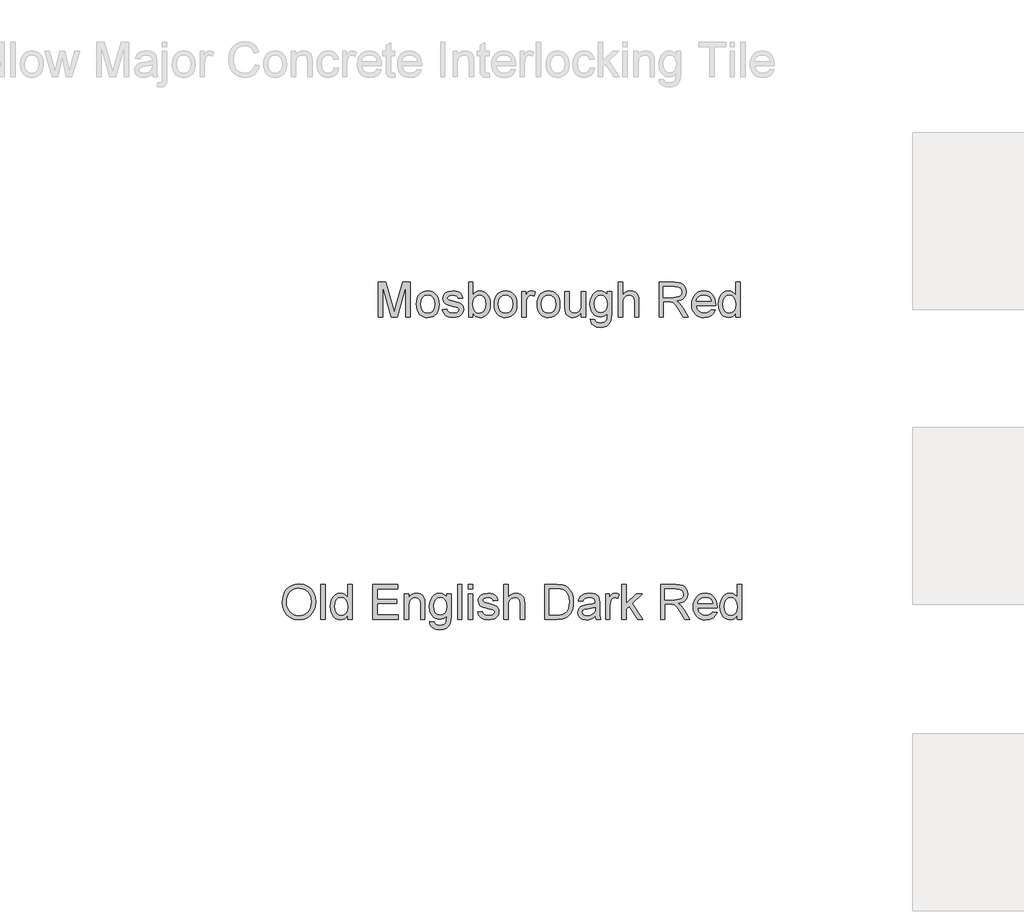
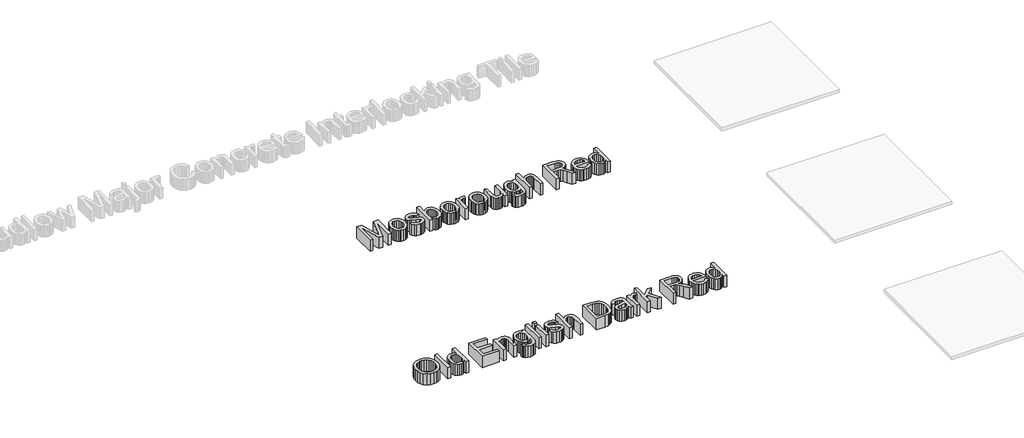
# One storey, part 3 of 6: 2 proxies.
"""IFC4 building model written with IfcOpenShell, lengths in millimetres."""

from ifc_helpers import new_model, si_unit, frame, origin, place, context, project, spatial, polyline, outline, extrude, element, save

model = new_model("IFC4")

# Units and contexts
model_context = context("Model", 3, world=origin())
ifc_project = project(units=[si_unit("LENGTHUNIT", "METRE", prefix="MILLI")], contexts=[model_context])

# Site, building, storey
site = spatial("IfcSite", under=ifc_project)
building = spatial("IfcBuilding", under=site)
storey = spatial("IfcBuildingStorey", under=building, Name="Marley Concrete Interlocking", Elevation=3000.0)

# Proxies
placement = place(None, origin())
element("IfcBuildingElementProxy", 1, Name="600mm Arial", ObjectType="600mm Arial", at=placement, inside=storey, context=model_context, shape_type="SweptSolid", body=[
    extrude(outline(polyline([(-15713.948386, 3359.2801118), (-15713.948386, 3654.6647272), (-15650.4147322, 3654.6647272), (-15589.9820399, 3446.4676118), (-15577.7945399, 3402.9820349), (-15564.5974245, 3450.073381), (-15505.1743475, 3654.6647272), (-15441.6406937, 3654.6647272), (-15441.6406937, 3359.2801118), (-15478.5637706, 3359.2801118), (-15478.5637706, 3617.7416503), (-15552.7705014, 3359.2801118), (-15602.8185783, 3359.2801118), (-15677.0253091, 3617.7416503), (-15677.0253091, 3359.2801118), (-15713.948386, 3359.2801118)])), frame((0.0, 0.0, 3000.0), z_axis=(0.0, 0.0, 1.0), x_axis=(1.0, 0.0, 0.0)), (0.0, 0.0, 1.0), 150.0),
    extrude(outline(polyline([(-15390.8714629, 3467.7416503), (-15388.8747682, 3495.8350998), (-15382.8846841, 3520.043333), (-15372.9012105, 3540.3663498), (-15358.9243475, 3556.8041503), (-15344.8528331, 3567.3104604), (-15329.3209822, 3574.8149676), (-15312.3287947, 3579.3176719), (-15293.8762706, 3580.8185733), (-15273.5059281, 3578.9908991), (-15255.0872081, 3573.5078762), (-15238.6201108, 3564.3695048), (-15224.104636, 3551.5757849), (-15212.2574305, 3535.5594087), (-15203.7951408, 3516.7530685), (-15198.717767, 3495.1567644), (-15197.0253091, 3470.7704964), (-15200.0180975, 3433.4688137), (-15208.9964629, 3405.073381), (-15223.698987, 3383.808357), (-15243.8642514, 3367.8979003), (-15267.8155735, 3357.9730205), (-15293.8762706, 3354.6647272), (-15314.5440891, 3356.4856407), (-15333.1340831, 3361.948381), (-15349.6462526, 3371.0529483), (-15364.0805975, 3383.7993426), (-15375.8016012, 3399.9712176), (-15384.1737466, 3419.3522272), (-15389.1970338, 3441.9423714), (-15390.8714629, 3467.7416503)]), holes=[polyline([(-15353.948386, 3467.8137657), (-15349.6755495, 3434.3972993), (-15336.8570399, 3410.590208), (-15317.5661745, 3396.3384051), (-15293.8762706, 3391.5878041), (-15270.2945399, 3396.3654483), (-15251.0397322, 3410.698381), (-15238.2212225, 3434.8209772), (-15233.948386, 3468.9676118), (-15238.2482658, 3501.4105205), (-15251.1479052, 3524.8930926), (-15270.4297562, 3539.1448955), (-15293.8762706, 3543.8954964), (-15317.5661745, 3539.1629243), (-15336.8570399, 3524.965208), (-15349.6755495, 3501.2122032), (-15353.948386, 3467.8137657)])]), frame((0.0, 0.0, 3000.0), z_axis=(0.0, 0.0, 1.0), x_axis=(1.0, 0.0, 0.0)), (0.0, 0.0, 1.0), 150.0),
    extrude(outline(polyline([(-15169.3330014, 3423.8954964), (-15132.4099245, 3428.510881), (-15126.5866072, 3412.7176118), (-15115.3185783, 3401.1070349), (-15098.5337225, 3393.9676118), (-15076.1599245, 3391.5878041), (-15054.0565591, 3393.7692945), (-15038.5156937, 3400.3137657), (-15029.3209822, 3409.7969387), (-15026.2560783, 3420.7945349), (-15029.339011, 3430.2055926), (-15038.5878091, 3437.3810733), (-15076.5926168, 3447.9099195), (-15132.1935783, 3465.9748233), (-15146.2650927, 3475.0523474), (-15156.4604052, 3487.0685733), (-15162.6533139, 3501.2572753), (-15164.7176168, 3516.8522272), (-15163.0589629, 3531.1581166), (-15158.0830014, 3544.3642464), (-15150.2404533, 3555.9477801), (-15139.9820399, 3565.385881), (-15116.5084822, 3576.3113618), (-15084.7416552, 3580.8185733), (-15060.7092033, 3579.0066743), (-15039.8137706, 3573.5709772), (-15023.010886, 3565.043333), (-15011.2560783, 3553.9555926), (-15003.4676168, 3539.4874435), (-14998.5637706, 3520.8185733), (-15035.4868475, 3516.2031887), (-15040.1473043, 3527.8227801), (-15049.3690591, 3536.5757849), (-15063.2422562, 3542.0655685), (-15081.8570399, 3543.8954964), (-15103.0589629, 3542.1466983), (-15117.1935783, 3536.9003041), (-15125.1442995, 3529.3281887), (-15127.7945399, 3520.6022272), (-15123.3955014, 3509.8570349), (-15109.6214629, 3501.7079964), (-15077.8185783, 3493.8474195), (-15023.6238668, 3476.4676118), (-15009.3089629, 3468.1563137), (-14998.4555975, 3456.7801118), (-14991.6136504, 3442.3029483), (-14989.3330014, 3424.6887657), (-14992.010285, 3406.479631), (-15000.042136, 3389.3522272), (-15013.1220639, 3374.6497032), (-15030.9435783, 3363.715208), (-15052.4700206, 3356.9273474), (-15076.6647322, 3354.6647272), (-15113.8942995, 3359.027708), (-15141.0637706, 3372.1166503), (-15159.2007899, 3393.7873233), (-15169.3330014, 3423.8954964)])), frame((0.0, 0.0, 3000.0), z_axis=(0.0, 0.0, 1.0), x_axis=(1.0, 0.0, 0.0)), (0.0, 0.0, 1.0), 150.0),
    extrude(outline(polyline([(-14910.8714629, 3359.2801118), (-14947.7945399, 3359.2801118), (-14947.7945399, 3654.6647272), (-14910.8714629, 3654.6647272), (-14910.8714629, 3545.121458), (-14898.729035, 3560.7389459), (-14885.0180975, 3571.8942945), (-14869.7386504, 3578.5875036), (-14852.8906937, 3580.8185733), (-14833.870261, 3578.808357), (-14815.8955014, 3572.777708), (-14799.9940591, 3563.105232), (-14787.1935783, 3550.1695349), (-14777.1605254, 3534.0968185), (-14769.5613668, 3515.0132849), (-14764.7747081, 3493.7122032), (-14763.1791552, 3470.9868426), (-14764.8310483, 3444.7638858), (-14769.7867274, 3421.6959772), (-14778.0461925, 3401.7831166), (-14789.6094437, 3385.0253041), (-14803.4894016, 3371.7425517), (-14818.698987, 3362.2548714), (-14835.2381997, 3356.5622632), (-14853.1070399, 3354.6647272), (-14870.5093836, 3357.1121431), (-14885.9375687, 3364.4543907), (-14899.3915951, 3376.69147), (-14910.8714629, 3393.823381), (-14910.8714629, 3359.2801118)]), holes=[polyline([(-14910.8714629, 3469.2560733), (-14908.3474245, 3438.4628041), (-14900.7753091, 3417.621458), (-14891.8284942, 3406.2317344), (-14881.4303572, 3398.0962176), (-14869.580898, 3393.2149075), (-14856.2801168, 3391.5878041), (-14834.9700206, 3396.3834772), (-14816.760886, 3410.7704964), (-14804.2668956, 3434.6587176), (-14800.1022322, 3467.9579964), (-14804.0956216, 3501.7440541), (-14816.0757899, 3525.3618426), (-14833.7170158, 3539.262083), (-14854.6935783, 3543.8954964), (-14876.0036745, 3539.0998233), (-14894.2128091, 3524.7128041), (-14906.7067995, 3501.2572753), (-14910.8714629, 3469.2560733)])]), frame((0.0, 0.0, 3000.0), z_axis=(0.0, 0.0, 1.0), x_axis=(1.0, 0.0, 0.0)), (0.0, 0.0, 1.0), 150.0),
    extrude(outline(polyline([(-14730.8714629, 3467.7416503), (-14728.8747682, 3495.8350998), (-14722.8846841, 3520.043333), (-14712.9012105, 3540.3663498), (-14698.9243475, 3556.8041503), (-14684.8528331, 3567.3104604), (-14669.3209822, 3574.8149676), (-14652.3287947, 3579.3176719), (-14633.8762706, 3580.8185733), (-14613.5059281, 3578.9908991), (-14595.0872081, 3573.5078762), (-14578.6201108, 3564.3695048), (-14564.104636, 3551.5757849), (-14552.2574305, 3535.5594087), (-14543.7951408, 3516.7530685), (-14538.717767, 3495.1567644), (-14537.0253091, 3470.7704964), (-14540.0180975, 3433.4688137), (-14548.9964629, 3405.073381), (-14563.698987, 3383.808357), (-14583.8642514, 3367.8979003), (-14607.8155735, 3357.9730205), (-14633.8762706, 3354.6647272), (-14654.5440891, 3356.4856407), (-14673.1340831, 3361.948381), (-14689.6462526, 3371.0529483), (-14704.0805975, 3383.7993426), (-14715.8016012, 3399.9712176), (-14724.1737466, 3419.3522272), (-14729.1970338, 3441.9423714), (-14730.8714629, 3467.7416503)]), holes=[polyline([(-14693.948386, 3467.8137657), (-14689.6755495, 3434.3972993), (-14676.8570399, 3410.590208), (-14657.5661745, 3396.3384051), (-14633.8762706, 3391.5878041), (-14610.2945399, 3396.3654483), (-14591.0397322, 3410.698381), (-14578.2212225, 3434.8209772), (-14573.948386, 3468.9676118), (-14578.2482658, 3501.4105205), (-14591.1479052, 3524.8930926), (-14610.4297562, 3539.1448955), (-14633.8762706, 3543.8954964), (-14657.5661745, 3539.1629243), (-14676.8570399, 3524.965208), (-14689.6755495, 3501.2122032), (-14693.948386, 3467.8137657)])]), frame((0.0, 0.0, 3000.0), z_axis=(0.0, 0.0, 1.0), x_axis=(1.0, 0.0, 0.0)), (0.0, 0.0, 1.0), 150.0),
    extrude(outline(polyline([(-14495.4868475, 3359.2801118), (-14495.4868475, 3576.2031887), (-14463.1791552, 3576.2031887), (-14463.1791552, 3544.1118426), (-14451.2440591, 3562.7176118), (-14440.2464629, 3573.6791503), (-14429.2128091, 3579.0337176), (-14417.1695399, 3580.8185733), (-14398.7801168, 3577.9700157), (-14380.1022322, 3569.4243426), (-14392.4339629, 3536.323381), (-14405.4147322, 3542.0024676), (-14418.3955014, 3543.8954964), (-14429.4201408, 3542.074583), (-14439.2729052, 3536.6118426), (-14447.2326408, 3527.9219387), (-14452.5781937, 3516.4195349), (-14457.0673764, 3495.7945349), (-14458.5637706, 3473.2945349), (-14458.5637706, 3359.2801118), (-14495.4868475, 3359.2801118)])), frame((0.0, 0.0, 3000.0), z_axis=(0.0, 0.0, 1.0), x_axis=(1.0, 0.0, 0.0)), (0.0, 0.0, 1.0), 150.0),
    extrude(outline(polyline([(-14366.2560783, 3467.7416503), (-14364.2593836, 3495.8350998), (-14358.2692995, 3520.043333), (-14348.2858259, 3540.3663498), (-14334.3089629, 3556.8041503), (-14320.2374485, 3567.3104604), (-14304.7055975, 3574.8149676), (-14287.71341, 3579.3176719), (-14269.260886, 3580.8185733), (-14248.8905435, 3578.9908991), (-14230.4718235, 3573.5078762), (-14214.0047262, 3564.3695048), (-14199.4892514, 3551.5757849), (-14187.6420459, 3535.5594087), (-14179.1797562, 3516.7530685), (-14174.1023824, 3495.1567644), (-14172.4099245, 3470.7704964), (-14175.4027129, 3433.4688137), (-14184.3810783, 3405.073381), (-14199.0836024, 3383.808357), (-14219.2488668, 3367.8979003), (-14243.2001889, 3357.9730205), (-14269.260886, 3354.6647272), (-14289.9287045, 3356.4856407), (-14308.5186985, 3361.948381), (-14325.030868, 3371.0529483), (-14339.4652129, 3383.7993426), (-14351.1862165, 3399.9712176), (-14359.558362, 3419.3522272), (-14364.5816492, 3441.9423714), (-14366.2560783, 3467.7416503)]), holes=[polyline([(-14329.3330014, 3467.8137657), (-14325.0601649, 3434.3972993), (-14312.2416552, 3410.590208), (-14292.9507899, 3396.3384051), (-14269.260886, 3391.5878041), (-14245.6791552, 3396.3654483), (-14226.4243475, 3410.698381), (-14213.6058379, 3434.8209772), (-14209.3330014, 3468.9676118), (-14213.6328812, 3501.4105205), (-14226.5325206, 3524.8930926), (-14245.8143716, 3539.1448955), (-14269.260886, 3543.8954964), (-14292.9507899, 3539.1629243), (-14312.2416552, 3524.965208), (-14325.0601649, 3501.2122032), (-14329.3330014, 3467.8137657)])]), frame((0.0, 0.0, 3000.0), z_axis=(0.0, 0.0, 1.0), x_axis=(1.0, 0.0, 0.0)), (0.0, 0.0, 1.0), 150.0),
    extrude(outline(polyline([(-13992.4099245, 3359.2801118), (-13992.4099245, 3396.5637657), (-14005.7692995, 3378.2329363), (-14021.3281937, 3365.1394868), (-14039.0866072, 3357.2834171), (-14059.0445399, 3354.6647272), (-14077.0283139, 3356.5036695), (-14093.7680975, 3362.0204964), (-14107.8125687, 3370.3137657), (-14117.7104052, 3380.4820349), (-14128.7080014, 3407.6695349), (-14130.8714629, 3441.996458), (-14130.8714629, 3576.2031887), (-14093.948386, 3576.2031887), (-14093.948386, 3459.3762657), (-14091.7128091, 3421.7320349), (-14086.3311985, 3409.1749435), (-14077.1094437, 3399.6286695), (-14064.6605254, 3393.5980205), (-14049.5974245, 3391.5878041), (-14033.6689389, 3393.6430926), (-14018.7680975, 3399.808958), (-14006.4814389, 3409.5174916), (-13998.3955014, 3422.2007849), (-13993.9063187, 3439.5715782), (-13992.4099245, 3463.3426118), (-13992.4099245, 3576.2031887), (-13955.4868475, 3576.2031887), (-13955.4868475, 3359.2801118), (-13992.4099245, 3359.2801118)])), frame((0.0, 0.0, 3000.0), z_axis=(0.0, 0.0, 1.0), x_axis=(1.0, 0.0, 0.0)), (0.0, 0.0, 1.0), 150.0),
    extrude(outline(polyline([(-13913.948386, 3340.8185733), (-13877.0253091, 3336.2031887), (-13872.9507899, 3324.6647272), (-13865.0541552, 3316.7320349), (-13849.5313187, 3310.5661695), (-13829.2128091, 3308.510881), (-13807.542136, 3310.8366022), (-13791.4243475, 3317.8137657), (-13780.2464629, 3328.9916503), (-13773.3955014, 3343.9195349), (-13770.8714629, 3386.9724195), (-13783.1581216, 3374.8570349), (-13796.8690591, 3366.2031887), (-13812.0042754, 3361.010881), (-13828.5637706, 3359.2801118), (-13848.8079112, 3361.2948354), (-13866.6316793, 3367.339006), (-13882.0350747, 3377.4126238), (-13895.0180975, 3391.5156887), (-13905.3193295, 3408.4357608), (-13912.6773524, 3426.9604003), (-13918.5637706, 3468.823381), (-13915.9225447, 3498.6340782), (-13907.9988668, 3526.0469387), (-13895.0721841, 3549.277107), (-13877.4219437, 3566.5397272), (-13855.652112, 3577.2488618), (-13830.3666552, 3580.8185733), (-13813.0995278, 3578.7993426), (-13797.4279533, 3572.7416503), (-13783.3519317, 3562.6454964), (-13770.8714629, 3548.510881), (-13770.8714629, 3576.2031887), (-13733.948386, 3576.2031887), (-13733.948386, 3388.9195349), (-13736.4724245, 3345.6773474), (-13744.0445399, 3317.2007849), (-13757.08841, 3298.3155685), (-13776.0277129, 3283.8474195), (-13800.447785, 3274.652708), (-13829.9339629, 3271.5878041), (-13864.2879293, 3275.9057128), (-13891.3402129, 3288.8594387), (-13901.5287646, 3298.5837476), (-13908.6929774, 3310.4850397), (-13912.8328512, 3324.5633149), (-13913.948386, 3340.8185733)]), holes=[polyline([(-13881.6406937, 3471.3474195), (-13877.7013908, 3437.480232), (-13865.8834822, 3414.1959772), (-13848.1160543, 3400.7013858), (-13826.3281937, 3396.2031887), (-13804.7025927, 3400.6743426), (-13786.8450206, 3414.0878041), (-13774.8648524, 3437.074583), (-13770.8714629, 3470.2656887), (-13774.9820399, 3502.2759051), (-13787.3137706, 3525.3257849), (-13805.432761, 3539.2530685), (-13826.9051168, 3543.8954964), (-13847.9898524, 3539.3251839), (-13865.667136, 3525.6142464), (-13877.6473043, 3502.9069147), (-13881.6406937, 3471.3474195)])]), frame((0.0, 0.0, 3000.0), z_axis=(0.0, 0.0, 1.0), x_axis=(1.0, 0.0, 0.0)), (0.0, 0.0, 1.0), 150.0),
    extrude(outline(polyline([(-13678.5637706, 3359.2801118), (-13678.5637706, 3654.6647272), (-13641.6406937, 3654.6647272), (-13641.6406937, 3546.058958), (-13628.0784942, 3561.2662897), (-13612.8486264, 3572.1286695), (-13595.9510903, 3578.6460974), (-13577.385886, 3580.8185733), (-13555.0842033, 3578.4477801), (-13535.9195399, 3571.3354003), (-13520.8293956, 3560.0403282), (-13510.7512706, 3545.121458), (-13505.0721841, 3524.6226599), (-13503.1791552, 3496.5878041), (-13503.1791552, 3359.2801118), (-13540.1022322, 3359.2801118), (-13540.1022322, 3492.7656887), (-13543.0409341, 3515.8786695), (-13551.8570399, 3531.7079964), (-13566.0637706, 3540.8486214), (-13585.1743475, 3543.8954964), (-13600.7783139, 3541.840208), (-13615.4267514, 3535.6743426), (-13627.5601649, 3525.9928522), (-13635.6190591, 3513.3906887), (-13640.135285, 3496.6418907), (-13641.6406937, 3474.5204964), (-13641.6406937, 3359.2801118), (-13678.5637706, 3359.2801118)])), frame((0.0, 0.0, 3000.0), z_axis=(0.0, 0.0, 1.0), x_axis=(1.0, 0.0, 0.0)), (0.0, 0.0, 1.0), 150.0),
    extrude(outline(polyline([(-13332.4099245, 3359.2801118), (-13332.4099245, 3654.6647272), (-13205.1262706, 3654.6647272), (-13170.916535, 3652.6725397), (-13146.0277129, 3646.6959772), (-13127.8366072, 3635.6623233), (-13113.7200206, 3618.4988618), (-13104.6605254, 3597.2158089), (-13101.6406937, 3573.823381), (-13106.6436985, 3544.7248233), (-13121.6527129, 3520.6022272), (-13133.022154, 3510.7719988), (-13147.1184581, 3502.9159291), (-13183.4916552, 3493.1262657), (-13162.5060783, 3477.3329964), (-13132.5781937, 3439.3281887), (-13083.323386, 3359.2801118), (-13126.2320399, 3359.2801118), (-13164.6695399, 3420.5060733), (-13192.4339629, 3461.0349195), (-13211.9411745, 3480.1815541), (-13229.5012706, 3487.2128041), (-13250.9195399, 3488.510881), (-13295.4868475, 3488.510881), (-13295.4868475, 3359.2801118), (-13332.4099245, 3359.2801118)]), holes=[polyline([(-13295.4868475, 3525.433958), (-13212.8426168, 3525.433958), (-13189.1076408, 3526.7410493), (-13170.6911745, 3530.6623233), (-13156.8269918, 3537.4591983), (-13146.7488668, 3547.3930926), (-13140.6100447, 3559.4093185), (-13138.5637706, 3572.4531887), (-13142.4670158, 3590.464006), (-13154.1767514, 3604.9772272), (-13174.323987, 3614.5505445), (-13203.5397322, 3617.7416503), (-13295.4868475, 3617.7416503), (-13295.4868475, 3525.433958)])]), frame((0.0, 0.0, 3000.0), z_axis=(0.0, 0.0, 1.0), x_axis=(1.0, 0.0, 0.0)), (0.0, 0.0, 1.0), 150.0),
    extrude(outline(polyline([(-12889.7656937, 3423.8954964), (-12853.5637706, 3419.2801118), (-12866.6076408, 3392.0024676), (-12887.4219437, 3371.6118426), (-12915.5379293, 3358.901506), (-12950.4868475, 3354.6647272), (-12973.3970038, 3356.4924015), (-12993.8101649, 3361.9754243), (-13011.7263307, 3371.1137957), (-13027.1455014, 3383.9075157), (-13039.5448403, 3400.0005144), (-13048.401511, 3419.0367224), (-13053.7155134, 3441.0161394), (-13055.4868475, 3465.9387657), (-13053.6974846, 3491.706494), (-13048.3293956, 3514.418333), (-13039.3825807, 3534.0742825), (-13026.8570399, 3550.6743426), (-13011.4784341, 3563.8624435), (-12993.9724245, 3573.2825157), (-12974.339011, 3578.9345589), (-12952.5781937, 3580.8185733), (-12931.5182478, 3578.9390661), (-12912.4730254, 3573.3005445), (-12895.4425266, 3563.9030084), (-12880.4267514, 3550.746458), (-12868.1693896, 3534.1824556), (-12859.4141312, 3514.5625637), (-12854.1609762, 3491.8867825), (-12852.4099245, 3466.1551118), (-12852.6262706, 3456.2031887), (-13018.5637706, 3456.2031887), (-13012.1725447, 3428.5649676), (-12997.3257899, 3408.246458), (-12975.8985062, 3395.7524676), (-12949.7656937, 3391.5878041), (-12930.1142514, 3393.5168907), (-12913.5637706, 3399.3041503), (-12900.1142514, 3409.3101599), (-12889.7656937, 3423.8954964)]), holes=[polyline([(-13018.5637706, 3493.1262657), (-12889.3330014, 3493.1262657), (-12894.3269918, 3512.6334772), (-12904.1166552, 3526.5878041), (-12925.6430975, 3539.5685733), (-12952.7224245, 3543.8954964), (-12977.6112466, 3540.4429724), (-12998.1911745, 3530.0854003), (-13012.4970639, 3513.9405685), (-13018.5637706, 3493.1262657)])]), frame((0.0, 0.0, 3000.0), z_axis=(0.0, 0.0, 1.0), x_axis=(1.0, 0.0, 0.0)), (0.0, 0.0, 1.0), 150.0),
    extrude(outline(polyline([(-12681.6406937, 3359.2801118), (-12681.6406937, 3394.1118426), (-12692.6878692, 3376.8537296), (-12706.0697802, 3364.526506), (-12721.7864269, 3357.1301719), (-12739.8378091, 3354.6647272), (-12763.7080014, 3358.2344387), (-12785.5589629, 3368.9435733), (-12804.0565591, 3386.0439339), (-12817.8666552, 3408.7873233), (-12826.4664149, 3436.2542705), (-12829.3330014, 3467.5253041), (-12826.6917754, 3498.4087176), (-12818.7680975, 3526.2993426), (-12805.5709822, 3549.6106407), (-12787.1094437, 3566.7560733), (-12764.7807177, 3577.3029483), (-12739.9820399, 3580.8185733), (-12721.917136, 3578.3035493), (-12705.9435783, 3570.7584772), (-12692.4039149, 3559.1929724), (-12681.6406937, 3544.6166503), (-12681.6406937, 3654.6647272), (-12644.7176168, 3654.6647272), (-12644.7176168, 3359.2801118), (-12681.6406937, 3359.2801118)]), holes=[polyline([(-12792.4099245, 3467.6695349), (-12788.245261, 3434.2710974), (-12775.7512706, 3410.5180926), (-12757.5962225, 3396.3203762), (-12736.448386, 3391.5878041), (-12715.3095639, 3396.1040301), (-12697.6142514, 3409.652708), (-12685.6340831, 3432.4862416), (-12681.6406937, 3464.8570349), (-12685.7061985, 3500.2476599), (-12697.9027129, 3524.7849195), (-12716.0487466, 3539.1178522), (-12737.9628091, 3543.8954964), (-12759.3269918, 3539.3071551), (-12776.8330014, 3525.542131), (-12788.5156937, 3501.8972993), (-12792.4099245, 3467.6695349)])]), frame((0.0, 0.0, 3000.0), z_axis=(0.0, 0.0, 1.0), x_axis=(1.0, 0.0, 0.0)), (0.0, 0.0, 1.0), 150.0),
])
element("IfcBuildingElementProxy", 2, Name="600mm Arial", ObjectType="600mm Arial", at=placement, inside=storey, context=model_context, shape_type="SweptSolid", body=[
    extrude(outline(polyline([(-16526.9304654, 937.3726877), (-16524.4695279, 972.0196228), (-16517.0867154, 1002.6911973), (-16504.7820279, 1029.3874112), (-16487.5554654, 1052.1082646), (-16466.4391793, 1070.249791), (-16442.4653212, 1083.2080242), (-16415.6338909, 1090.9829641), (-16385.9448885, 1093.5746107), (-16347.2008981, 1088.7068223), (-16312.4593115, 1074.1034569), (-16283.6131577, 1050.7921588), (-16262.5554654, 1019.8005723), (-16249.6828692, 982.6250915), (-16245.3920038, 940.7621107), (-16249.9082298, 898.3402357), (-16263.4569077, 860.6419184), (-16285.2898404, 829.5962453), (-16314.6588308, 807.132303), (-16349.1029413, 793.5024953), (-16386.1612346, 788.9592261), (-16425.5001769, 793.9802598), (-16460.4400808, 809.0433607), (-16489.2141192, 832.7873511), (-16510.0554654, 863.851053), (-16522.7117154, 899.5932405), (-16526.9304654, 937.3726877)]), holes=[polyline([(-16490.0073885, 937.0121107), (-16488.1616853, 912.5334449), (-16482.624576, 890.804178), (-16473.3960603, 871.8243103), (-16460.4761385, 855.5938415), (-16444.7707599, 842.5950434), (-16427.185874, 833.3101877), (-16407.721481, 827.7392742), (-16386.3775808, 825.882303), (-16364.6685964, 827.757303), (-16344.9743356, 833.382303), (-16327.2947983, 842.757303), (-16311.6299846, 855.882303), (-16298.8047142, 872.4553199), (-16289.6438067, 892.1743703), (-16284.1472623, 915.0394545), (-16282.3150808, 941.0505723), (-16285.4521, 973.7368703), (-16294.8631577, 1001.9880723), (-16310.3048644, 1025.0920386), (-16331.5338308, 1042.33663), (-16357.1438067, 1053.0728078), (-16385.7285423, 1056.6515338), (-16406.3310063, 1054.9275254), (-16425.4460904, 1049.7555002), (-16443.0737947, 1041.1354581), (-16459.2141192, 1029.0673992), (-16472.6861745, 1012.9698932), (-16482.3090712, 992.2615098), (-16488.0828091, 966.942249), (-16490.0073885, 937.0121107)])]), frame((0.0, 0.0, 3000.0), z_axis=(0.0, 0.0, 1.0), x_axis=(1.0, 0.0, 0.0)), (0.0, 0.0, 1.0), 150.0),
    extrude(outline(polyline([(-16199.2381577, 793.5746107), (-16199.2381577, 1088.9592261), (-16162.3150808, 1088.9592261), (-16162.3150808, 793.5746107), (-16199.2381577, 793.5746107)])), frame((0.0, 0.0, 3000.0), z_axis=(0.0, 0.0, 1.0), x_axis=(1.0, 0.0, 0.0)), (0.0, 0.0, 1.0), 150.0),
    extrude(outline(polyline([(-15973.0843115, 793.5746107), (-15973.0843115, 828.4063415), (-15984.131487, 811.1482285), (-15997.5133981, 798.821005), (-16013.2300447, 791.4246708), (-16031.2814269, 788.9592261), (-16055.1516192, 792.5289377), (-16077.0025808, 803.2380723), (-16095.5001769, 820.3384328), (-16109.3102731, 843.0818223), (-16117.9100327, 870.5487694), (-16120.7766192, 901.819803), (-16118.1353933, 932.7032165), (-16110.2117154, 960.5938415), (-16097.0146, 983.9051396), (-16078.5530615, 1001.0505723), (-16056.2243356, 1011.5974473), (-16031.4256577, 1015.1130723), (-16013.3607538, 1012.5980482), (-15997.3871962, 1005.0529761), (-15983.8475327, 993.4874713), (-15973.0843115, 978.9111492), (-15973.0843115, 1088.9592261), (-15936.1612346, 1088.9592261), (-15936.1612346, 793.5746107), (-15973.0843115, 793.5746107)]), holes=[polyline([(-16083.8535423, 901.9640338), (-16079.6888788, 868.5655963), (-16067.1948885, 844.8125915), (-16049.0398404, 830.6148752), (-16027.8920038, 825.882303), (-16006.7531817, 830.398529), (-15989.0578692, 843.9472069), (-15977.077701, 866.7807405), (-15973.0843115, 899.1515338), (-15977.1498163, 934.5421588), (-15989.3463308, 959.0794184), (-16007.4923644, 973.4123511), (-16029.4064269, 978.1899953), (-16050.7706096, 973.601654), (-16068.2766192, 959.83663), (-16079.9593115, 936.1917982), (-16083.8535423, 901.9640338)])]), frame((0.0, 0.0, 3000.0), z_axis=(0.0, 0.0, 1.0), x_axis=(1.0, 0.0, 0.0)), (0.0, 0.0, 1.0), 150.0),
    extrude(outline(polyline([(-15760.7766192, 793.5746107), (-15760.7766192, 1088.9592261), (-15548.4689269, 1088.9592261), (-15548.4689269, 1052.0361492), (-15723.8535423, 1052.0361492), (-15723.8535423, 964.3438415), (-15557.6996962, 964.3438415), (-15557.6996962, 927.4207646), (-15723.8535423, 927.4207646), (-15723.8535423, 830.4976877), (-15543.8535423, 830.4976877), (-15543.8535423, 793.5746107), (-15760.7766192, 793.5746107)])), frame((0.0, 0.0, 3000.0), z_axis=(0.0, 0.0, 1.0), x_axis=(1.0, 0.0, 0.0)), (0.0, 0.0, 1.0), 150.0),
    extrude(outline(polyline([(-15493.0843115, 793.5746107), (-15493.0843115, 1010.4976877), (-15456.1612346, 1010.4976877), (-15456.1612346, 980.2092261), (-15443.3337106, 995.4796588), (-15427.9280615, 1006.3871107), (-15409.9442875, 1012.9315819), (-15389.3823885, 1015.1130723), (-15371.1822683, 1013.3552598), (-15354.5146, 1008.0818223), (-15340.6143596, 999.9508127), (-15330.7165231, 989.6202838), (-15319.6468115, 962.4688415), (-15317.6996962, 926.7717261), (-15317.6996962, 793.5746107), (-15354.6227731, 793.5746107), (-15354.6227731, 921.7957646), (-15358.8775808, 954.4640338), (-15364.763999, 964.1905963), (-15373.9136385, 971.7356684), (-15385.6414029, 976.5764136), (-15399.2621962, 978.1899953), (-15420.8877971, 974.5661973), (-15439.3222923, 963.694803), (-15446.6893296, 954.8201035), (-15451.951499, 942.6911973), (-15456.1612346, 908.6707646), (-15456.1612346, 793.5746107), (-15493.0843115, 793.5746107)])), frame((0.0, 0.0, 3000.0), z_axis=(0.0, 0.0, 1.0), x_axis=(1.0, 0.0, 0.0)), (0.0, 0.0, 1.0), 150.0),
    extrude(outline(polyline([(-15276.1612346, 775.1130723), (-15239.2381577, 770.4976877), (-15235.1636385, 758.9592261), (-15227.2670038, 751.0265338), (-15211.7441673, 744.8606684), (-15191.4256577, 742.80538), (-15169.7549846, 745.1311011), (-15153.6371962, 752.1082646), (-15142.4593115, 763.2861492), (-15135.60835, 778.2140338), (-15133.0843115, 821.2669184), (-15145.3709702, 809.1515338), (-15159.0819077, 800.4976877), (-15174.217124, 795.30538), (-15190.7766192, 793.5746107), (-15211.0207599, 795.5893343), (-15228.8445279, 801.633505), (-15244.2479233, 811.7071228), (-15257.2309462, 825.8101877), (-15267.5321781, 842.7302598), (-15274.890201, 861.2548992), (-15280.7766192, 903.11788), (-15278.1353933, 932.9285771), (-15270.2117154, 960.3414377), (-15257.2850327, 983.5716059), (-15239.6347923, 1000.8342261), (-15217.8649606, 1011.5433607), (-15192.5795038, 1015.1130723), (-15175.3123764, 1013.0938415), (-15159.6408019, 1007.0361492), (-15145.5647803, 996.9399953), (-15133.0843115, 982.80538), (-15133.0843115, 1010.4976877), (-15096.1612346, 1010.4976877), (-15096.1612346, 823.2140338), (-15098.6852731, 779.9718463), (-15106.2573885, 751.4952838), (-15119.3012587, 732.6100675), (-15138.2405615, 718.1419184), (-15162.6606337, 708.9472069), (-15192.1468115, 705.882303), (-15226.5007779, 710.2002117), (-15253.5530615, 723.1539377), (-15263.7416132, 732.8782465), (-15270.905826, 744.7795386), (-15275.0456998, 758.8578139), (-15276.1612346, 775.1130723)]), holes=[polyline([(-15243.8535423, 905.6419184), (-15239.9142394, 871.7747309), (-15228.0963308, 848.4904761), (-15210.3289029, 834.9958848), (-15188.5410423, 830.4976877), (-15166.9154413, 834.9688415), (-15149.0578692, 848.382303), (-15137.077701, 871.3690819), (-15133.0843115, 904.5601877), (-15137.1948885, 936.570404), (-15149.5266192, 959.6202838), (-15167.6456096, 973.5475675), (-15189.1179654, 978.1899953), (-15210.202701, 973.6196828), (-15227.8799846, 959.9087453), (-15239.8601529, 937.2014136), (-15243.8535423, 905.6419184)])]), frame((0.0, 0.0, 3000.0), z_axis=(0.0, 0.0, 1.0), x_axis=(1.0, 0.0, 0.0)), (0.0, 0.0, 1.0), 150.0),
    extrude(outline(polyline([(-15040.7766192, 793.5746107), (-15040.7766192, 1088.9592261), (-15003.8535423, 1088.9592261), (-15003.8535423, 793.5746107), (-15040.7766192, 793.5746107)])), frame((0.0, 0.0, 3000.0), z_axis=(0.0, 0.0, 1.0), x_axis=(1.0, 0.0, 0.0)), (0.0, 0.0, 1.0), 150.0),
    extrude(outline(polyline([(-14948.4689269, 793.5746107), (-14948.4689269, 1010.4976877), (-14911.54585, 1010.4976877), (-14911.54585, 793.5746107), (-14948.4689269, 793.5746107)])), frame((0.0, 0.0, 3000.0), z_axis=(0.0, 0.0, 1.0), x_axis=(1.0, 0.0, 0.0)), (0.0, 0.0, 1.0), 150.0),
    extrude(outline(polyline([(-14948.4689269, 1052.0361492), (-14948.4689269, 1088.9592261), (-14911.54585, 1088.9592261), (-14911.54585, 1052.0361492), (-14948.4689269, 1052.0361492)])), frame((0.0, 0.0, 3000.0), z_axis=(0.0, 0.0, 1.0), x_axis=(1.0, 0.0, 0.0)), (0.0, 0.0, 1.0), 150.0),
    extrude(outline(polyline([(-14870.0073885, 858.1899953), (-14833.0843115, 862.80538), (-14827.2609942, 847.0121107), (-14815.9929654, 835.4015338), (-14799.2081096, 828.2621107), (-14776.8343115, 825.882303), (-14754.7309462, 828.0637934), (-14739.1900808, 834.6082646), (-14729.9953692, 844.0914377), (-14726.9304654, 855.0890338), (-14730.0133981, 864.5000915), (-14739.2621962, 871.6755723), (-14777.2670038, 882.2044184), (-14832.8679654, 900.2693223), (-14846.9394798, 909.3468463), (-14857.1347923, 921.3630723), (-14863.327701, 935.5517742), (-14865.3920038, 951.1467261), (-14863.73335, 965.4526155), (-14858.7573885, 978.6587453), (-14850.9148404, 990.242279), (-14840.6564269, 999.68038), (-14817.1828692, 1010.6058607), (-14785.4160423, 1015.1130723), (-14761.3835904, 1013.3011732), (-14740.4881577, 1007.8654761), (-14723.6852731, 999.3378319), (-14711.9304654, 988.2500915), (-14704.1420038, 973.7819425), (-14699.2381577, 955.1130723), (-14736.1612346, 950.4976877), (-14740.8216913, 962.117279), (-14750.0434462, 970.8702838), (-14763.9166433, 976.3600675), (-14782.5314269, 978.1899953), (-14803.73335, 976.4411973), (-14817.8679654, 971.194803), (-14825.8186865, 963.6226877), (-14828.4689269, 954.8967261), (-14824.0698885, 944.1515338), (-14810.29585, 936.0024953), (-14778.4929654, 928.1419184), (-14724.2982538, 910.7621107), (-14709.98335, 902.4508127), (-14699.1299846, 891.0746107), (-14692.2880375, 876.5974473), (-14690.0073885, 858.9832646), (-14692.6846721, 840.77413), (-14700.7165231, 823.6467261), (-14713.796451, 808.9442021), (-14731.6179654, 798.0097069), (-14753.1444077, 791.2218463), (-14777.3391192, 788.9592261), (-14814.5686865, 793.3222069), (-14841.7381577, 806.4111492), (-14859.8751769, 828.0818223), (-14870.0073885, 858.1899953)])), frame((0.0, 0.0, 3000.0), z_axis=(0.0, 0.0, 1.0), x_axis=(1.0, 0.0, 0.0)), (0.0, 0.0, 1.0), 150.0),
    extrude(outline(polyline([(-14648.4689269, 793.5746107), (-14648.4689269, 1088.9592261), (-14611.54585, 1088.9592261), (-14611.54585, 980.3534569), (-14597.9836505, 995.5607886), (-14582.7537827, 1006.4231684), (-14565.8562466, 1012.9405963), (-14547.2910423, 1015.1130723), (-14524.9893596, 1012.742279), (-14505.8246962, 1005.6298992), (-14490.7345519, 994.3348271), (-14480.6564269, 979.4159569), (-14474.9773404, 958.9171588), (-14473.0843115, 930.882303), (-14473.0843115, 793.5746107), (-14510.0073885, 793.5746107), (-14510.0073885, 927.0601877), (-14512.9460904, 950.1731684), (-14521.7621962, 966.0024953), (-14535.9689269, 975.1431203), (-14555.0795038, 978.1899953), (-14570.6834702, 976.1347069), (-14585.3319077, 969.9688415), (-14597.4653212, 960.2873511), (-14605.5242154, 947.6851877), (-14610.0404413, 930.9363896), (-14611.54585, 908.8149953), (-14611.54585, 793.5746107), (-14648.4689269, 793.5746107)])), frame((0.0, 0.0, 3000.0), z_axis=(0.0, 0.0, 1.0), x_axis=(1.0, 0.0, 0.0)), (0.0, 0.0, 1.0), 150.0),
    extrude(outline(polyline([(-14302.3150808, 793.5746107), (-14302.3150808, 1088.9592261), (-14200.4160423, 1088.9592261), (-14147.6996962, 1084.7044184), (-14124.1540231, 1076.5012934), (-14104.2862346, 1063.5746107), (-14083.8595519, 1041.0746107), (-14069.3102731, 1013.0938415), (-14060.6023404, 980.1731684), (-14057.6996962, 942.8534569), (-14059.6648404, 911.1497309), (-14065.5602731, 883.2500915), (-14074.5386385, 859.4970867), (-14085.7525808, 840.2332646), (-14098.6612346, 825.0259328), (-14112.7237346, 813.4423992), (-14128.8685663, 804.851654), (-14148.0242154, 798.6226877), (-14195.5121962, 793.5746107), (-14302.3150808, 793.5746107)]), holes=[polyline([(-14265.3920038, 830.4976877), (-14200.0554654, 830.4976877), (-14173.030225, 831.8318223), (-14152.5314269, 835.8342261), (-14137.0626769, 842.2705242), (-14125.1275808, 850.9063415), (-14112.3000567, 866.8889136), (-14102.6636385, 887.5770146), (-14096.6329894, 913.0607886), (-14094.6227731, 943.43038), (-14098.562076, 983.6707646), (-14110.3799846, 1013.382303), (-14127.8409221, 1033.7909569), (-14148.7093115, 1046.1226877), (-14169.9472923, 1050.5577838), (-14201.0650808, 1052.0361492), (-14265.3920038, 1052.0361492), (-14265.3920038, 830.4976877)])]), frame((0.0, 0.0, 3000.0), z_axis=(0.0, 0.0, 1.0), x_axis=(1.0, 0.0, 0.0)), (0.0, 0.0, 1.0), 150.0),
    extrude(outline(polyline([(-13873.0843115, 821.2669184), (-13890.7255375, 806.1407165), (-13908.8896, 796.24288), (-13927.9911625, 790.7801396), (-13948.4448885, 788.9592261), (-13979.3012587, 793.3402357), (-14002.0626769, 806.4832646), (-14016.0981337, 826.4411973), (-14020.7766192, 851.2669184), (-14019.0097923, 866.5734088), (-14013.7093115, 880.4736492), (-14005.5332298, 892.3726877), (-13995.1396, 901.6755723), (-13969.2862346, 913.7909569), (-13937.3391192, 919.3438415), (-13899.5867154, 925.1851877), (-13873.3006577, 932.0361492), (-13873.0843115, 940.257303), (-13875.6263788, 956.7356684), (-13883.2525808, 967.5169184), (-13900.3078692, 975.5217261), (-13924.0698885, 978.1899953), (-13946.0650808, 976.414154), (-13961.4256577, 971.08663), (-13971.9004173, 961.2338655), (-13979.2381577, 945.882303), (-14016.1612346, 950.4976877), (-14009.7519798, 970.6899953), (-14000.1876769, 986.55538), (-13986.5758981, 998.6887934), (-13968.0242154, 1007.6851877), (-13945.3349125, 1013.2561011), (-13919.3102731, 1015.1130723), (-13894.3493356, 1013.4724473), (-13874.5626769, 1008.5505723), (-13859.6438067, 1001.1497309), (-13849.2862346, 992.0722069), (-13842.4172442, 980.8492502), (-13837.9641192, 967.0121107), (-13836.1612346, 934.7044184), (-13836.1612346, 888.7669184), (-13834.2862346, 824.6202838), (-13826.9304654, 793.5746107), (-13863.8535423, 793.5746107), (-13873.0843115, 821.2669184)]), holes=[polyline([(-13873.0843115, 895.1130723), (-13932.6516192, 883.7909569), (-13964.4184462, 877.80538), (-13978.8054654, 868.069803), (-13983.8535423, 853.8630723), (-13981.1041433, 842.883505), (-13972.8559462, 833.8871107), (-13959.2892394, 827.883505), (-13940.5843115, 825.882303), (-13920.7525808, 828.0908367), (-13903.2285423, 834.7164377), (-13889.0218115, 844.4790578), (-13879.1420038, 856.0986492), (-13874.7609942, 868.069803), (-13873.3006577, 884.6563415), (-13873.0843115, 895.1130723)])]), frame((0.0, 0.0, 3000.0), z_axis=(0.0, 0.0, 1.0), x_axis=(1.0, 0.0, 0.0)), (0.0, 0.0, 1.0), 150.0),
    extrude(outline(polyline([(-13785.3920038, 793.5746107), (-13785.3920038, 1010.4976877), (-13753.0843115, 1010.4976877), (-13753.0843115, 978.4063415), (-13741.1492154, 997.0121107), (-13730.1516192, 1007.9736492), (-13719.1179654, 1013.3282165), (-13707.0746962, 1015.1130723), (-13688.6852731, 1012.2645146), (-13670.0073885, 1003.7188415), (-13682.3391192, 970.61788), (-13695.3198885, 976.2969665), (-13708.3006577, 978.1899953), (-13719.3252971, 976.3690819), (-13729.1780615, 970.9063415), (-13737.1377971, 962.2164377), (-13742.48335, 950.7140338), (-13746.9725327, 930.0890338), (-13748.4689269, 907.5890338), (-13748.4689269, 793.5746107), (-13785.3920038, 793.5746107)])), frame((0.0, 0.0, 3000.0), z_axis=(0.0, 0.0, 1.0), x_axis=(1.0, 0.0, 0.0)), (0.0, 0.0, 1.0), 150.0),
    extrude(outline(polyline([(-13646.9304654, 793.5746107), (-13646.9304654, 1088.9592261), (-13610.0073885, 1088.9592261), (-13610.0073885, 930.2332646), (-13527.2189269, 1010.4976877), (-13476.1612346, 1010.4976877), (-13559.9593115, 929.2236492), (-13471.54585, 793.5746107), (-13514.67085, 793.5746107), (-13586.4256577, 903.5505723), (-13610.0073885, 880.6899953), (-13610.0073885, 793.5746107), (-13646.9304654, 793.5746107)])), frame((0.0, 0.0, 3000.0), z_axis=(0.0, 0.0, 1.0), x_axis=(1.0, 0.0, 0.0)), (0.0, 0.0, 1.0), 150.0),
    extrude(outline(polyline([(-13319.2381577, 793.5746107), (-13319.2381577, 1088.9592261), (-13191.9545038, 1088.9592261), (-13157.7447683, 1086.9670386), (-13132.8559462, 1080.9904761), (-13114.6648404, 1069.9568223), (-13100.5482538, 1052.7933607), (-13091.4887587, 1031.5103078), (-13088.4689269, 1008.11788), (-13093.4719317, 979.0193223), (-13108.4809462, 954.8967261), (-13119.8503873, 945.0664978), (-13133.9466913, 937.210428), (-13170.3198885, 927.4207646), (-13149.3343115, 911.6274953), (-13119.4064269, 873.6226877), (-13070.1516192, 793.5746107), (-13113.0602731, 793.5746107), (-13151.4977731, 854.8005723), (-13179.2621962, 895.3294184), (-13198.7694077, 914.476053), (-13216.3295038, 921.507303), (-13237.7477731, 922.80538), (-13282.3150808, 922.80538), (-13282.3150808, 793.5746107), (-13319.2381577, 793.5746107)]), holes=[polyline([(-13282.3150808, 959.7284569), (-13199.67085, 959.7284569), (-13175.935874, 961.0355482), (-13157.5194077, 964.9568223), (-13143.655225, 971.7536973), (-13133.5771, 981.6875915), (-13127.4382779, 993.7038175), (-13125.3920038, 1006.7476877), (-13129.295249, 1024.758505), (-13141.0049846, 1039.2717261), (-13161.1522202, 1048.8450434), (-13190.3679654, 1052.0361492), (-13282.3150808, 1052.0361492), (-13282.3150808, 959.7284569)])]), frame((0.0, 0.0, 3000.0), z_axis=(0.0, 0.0, 1.0), x_axis=(1.0, 0.0, 0.0)), (0.0, 0.0, 1.0), 150.0),
    extrude(outline(polyline([(-12876.5939269, 858.1899953), (-12840.3920038, 853.5746107), (-12853.435874, 826.2969665), (-12874.2501769, 805.9063415), (-12902.3661625, 793.196005), (-12937.3150808, 788.9592261), (-12960.225237, 790.7869004), (-12980.6383981, 796.2699232), (-12998.5545639, 805.4082946), (-13013.9737346, 818.2020146), (-13026.3730736, 834.2950134), (-13035.2297442, 853.3312213), (-13040.5437466, 875.3106384), (-13042.3150808, 900.2332646), (-13040.5257178, 926.0009929), (-13035.1576288, 948.7128319), (-13026.2108139, 968.3687814), (-13013.6852731, 984.9688415), (-12998.3066673, 998.1569425), (-12980.8006577, 1007.5770146), (-12961.1672442, 1013.2290578), (-12939.4064269, 1015.1130723), (-12918.346481, 1013.2335651), (-12899.3012587, 1007.5950434), (-12882.2707599, 998.1975074), (-12867.2549846, 985.0409569), (-12854.9976228, 968.4769545), (-12846.2423644, 948.8570627), (-12840.9892094, 926.1812814), (-12839.2381577, 900.4496107), (-12839.4545038, 890.4976877), (-13005.3920038, 890.4976877), (-12999.0007779, 862.8594665), (-12984.1540231, 842.5409569), (-12962.7267394, 830.0469665), (-12936.5939269, 825.882303), (-12916.9424846, 827.8113896), (-12900.3920038, 833.5986492), (-12886.9424846, 843.6046588), (-12876.5939269, 858.1899953)]), holes=[polyline([(-13005.3920038, 927.4207646), (-12876.1612346, 927.4207646), (-12881.155225, 946.9279761), (-12890.9448885, 960.882303), (-12912.4713308, 973.8630723), (-12939.5506577, 978.1899953), (-12964.4394798, 974.7374713), (-12985.0194077, 964.3798992), (-12999.3252971, 948.2350675), (-13005.3920038, 927.4207646)])]), frame((0.0, 0.0, 3000.0), z_axis=(0.0, 0.0, 1.0), x_axis=(1.0, 0.0, 0.0)), (0.0, 0.0, 1.0), 150.0),
    extrude(outline(polyline([(-12668.4689269, 793.5746107), (-12668.4689269, 828.4063415), (-12679.5161024, 811.1482285), (-12692.8980135, 798.821005), (-12708.6146601, 791.4246708), (-12726.6660423, 788.9592261), (-12750.5362346, 792.5289377), (-12772.3871962, 803.2380723), (-12790.8847923, 820.3384328), (-12804.6948885, 843.0818223), (-12813.2946481, 870.5487694), (-12816.1612346, 901.819803), (-12813.5200087, 932.7032165), (-12805.5963308, 960.5938415), (-12792.3992154, 983.9051396), (-12773.9376769, 1001.0505723), (-12751.608951, 1011.5974473), (-12726.8102731, 1015.1130723), (-12708.7453692, 1012.5980482), (-12692.7718115, 1005.0529761), (-12679.2321481, 993.4874713), (-12668.4689269, 978.9111492), (-12668.4689269, 1088.9592261), (-12631.54585, 1088.9592261), (-12631.54585, 793.5746107), (-12668.4689269, 793.5746107)]), holes=[polyline([(-12779.2381577, 901.9640338), (-12775.0734942, 868.5655963), (-12762.5795038, 844.8125915), (-12744.4244558, 830.6148752), (-12723.2766192, 825.882303), (-12702.1377971, 830.398529), (-12684.4424846, 843.9472069), (-12672.4623163, 866.7807405), (-12668.4689269, 899.1515338), (-12672.5344317, 934.5421588), (-12684.7309462, 959.0794184), (-12702.8769798, 973.4123511), (-12724.7910423, 978.1899953), (-12746.155225, 973.601654), (-12763.6612346, 959.83663), (-12775.3439269, 936.1917982), (-12779.2381577, 901.9640338)])]), frame((0.0, 0.0, 3000.0), z_axis=(0.0, 0.0, 1.0), x_axis=(1.0, 0.0, 0.0)), (0.0, 0.0, 1.0), 150.0),
])

save(model, "model.ifc")
